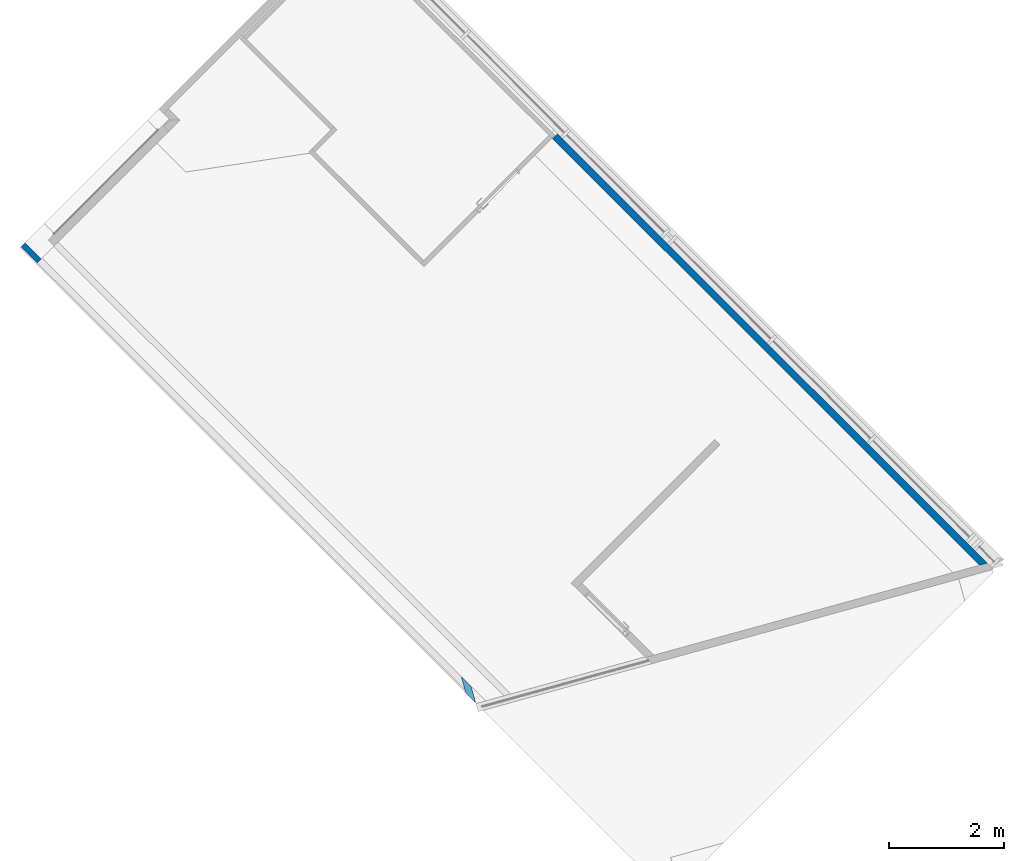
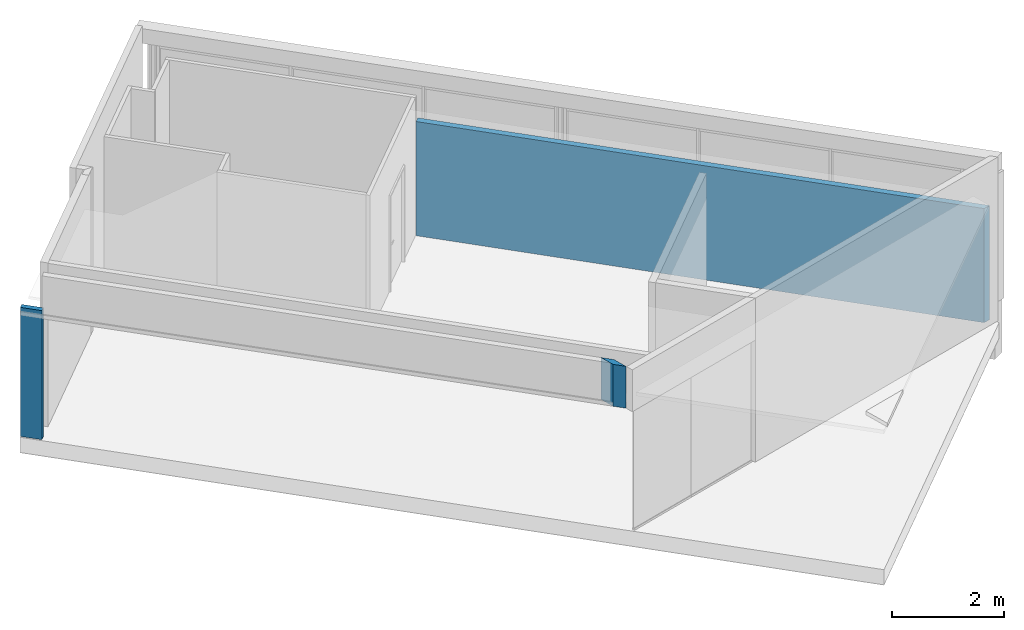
# One storey, part 4 of 6: 3 walls.
"""IFC2X3 building model written with IfcOpenShell, lengths in millimetres."""

from ifc_helpers import new_model, entity, si_unit, converted_unit, derived_unit, direction, frame, origin, origin_with_axes, place, context, subcontext, project, spatial, polyline, outline, extrude, faceted_brep, material, layer, layer_set, layer_usage, type_object, element, save


model = new_model("IFC2X3")

# Units and contexts
model_context = context("Model", 3, precision=0.01, world=origin(), true_north=direction((6.12323399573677e-17, 1.0)))
plan_context = context("Plan", 3, precision=1e-05, world=origin_with_axes())
body_context = subcontext(model_context, "Body", "Model", "MODEL_VIEW")
ifc_project = project(units=[converted_unit("PLANEANGLEUNIT", "DEGREE", entity("IfcPositiveLengthMeasure", 0.0174532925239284), si_unit("PLANEANGLEUNIT", "RADIAN"), dimensions=[0, 0, 0, 0, 0, 0, 0]), si_unit("AREAUNIT", "SQUARE_METRE"), si_unit("LENGTHUNIT", "METRE", prefix="MILLI"), si_unit("MASSUNIT", "GRAM", prefix="KILO"), si_unit("POWERUNIT", "WATT"), si_unit("PRESSUREUNIT", "PASCAL", prefix="KILO"), si_unit("FORCEUNIT", "NEWTON", prefix="KILO"), si_unit("ELECTRICVOLTAGEUNIT", "VOLT"), si_unit("ELECTRICCURRENTUNIT", "AMPERE"), si_unit("THERMODYNAMICTEMPERATUREUNIT", "DEGREE_CELSIUS"), si_unit("TIMEUNIT", "SECOND"), si_unit("VOLUMEUNIT", "CUBIC_METRE"), derived_unit("LINEARVELOCITYUNIT", [(si_unit("LENGTHUNIT", "METRE"), 1), (si_unit("TIMEUNIT", "SECOND"), -1)]), derived_unit("VOLUMETRICFLOWRATEUNIT", [(si_unit("VOLUMEUNIT", "CUBIC_METRE"), 1), (si_unit("TIMEUNIT", "SECOND"), -1)]), derived_unit("THERMALTRANSMITTANCEUNIT", [(si_unit("POWERUNIT", "WATT"), 1), (si_unit("THERMODYNAMICTEMPERATUREUNIT", "KELVIN"), -1), (si_unit("AREAUNIT", "SQUARE_METRE"), -1)]), derived_unit("SOUNDPRESSUREUNIT", [(si_unit("PRESSUREUNIT", "PASCAL"), 1)])], contexts=[model_context, plan_context])

# Site, building, storey
site_placement = place(None, frame((0.0, -2.21771188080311e-09, 0.0), z_axis=(0.0, 0.0, 1.0), x_axis=(0.266093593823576, -0.963947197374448, 0.0)))
site = spatial("IfcSite", under=ifc_project, at=site_placement, Name="ENZV", CompositionType="ELEMENT")
building_placement = place(site_placement, origin_with_axes())
building = spatial("IfcBuilding", under=site, at=building_placement, Name="ZV001", CompositionType="ELEMENT")
storey_placement = place(building_placement, frame((0.0, 0.0, 9300.0), z_axis=(0.0, 0.0, 1.0), x_axis=(1.0, 0.0, 0.0)))
storey = spatial("IfcBuildingStorey", under=building, at=storey_placement, Name="H02", CompositionType="ELEMENT", Elevation=9300.0)

# Walls
ifc_material_1 = material(Name="A246.Gips 12.5mm fiberarmert -QK5.31112")
ifc_layer_1 = layer(ifc_material_1, 13.0)
ifc_material_2 = material(Name="OSB plate")
ifc_layer_2 = layer(ifc_material_2, 12.0)
ifc_material_3 = material(Name="A242.Stender Lettmetall 95mm -PJ3.111002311")
ifc_layer_3 = layer(ifc_material_3, 70.0)
ifc_layer_4 = layer(ifc_material_2, 12.0)
ifc_layer_5 = layer(ifc_material_1, 13.0)
ifc_layer_set_1 = layer_set([ifc_layer_1, ifc_layer_2, ifc_layer_3, ifc_layer_4, ifc_layer_5], Name="Basic Wall:ENZV_S-UK01_S70_120mm_OSBG")
wall_type_1 = type_object("IfcWallType", Name="Basic Wall:ENZV_S-UK01_S70_120mm_OSBG", PredefinedType="STANDARD", material=ifc_layer_set_1)
wall_1_placement = place(storey_placement, frame((-250973.521324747, 425370.73838679, 2650.0), z_axis=(0.0, 0.0, 1.0), x_axis=(1.0, 0.0, 0.0)))
element("IfcWall", 1, at=wall_1_placement, inside=storey, type_object=wall_type_1, Name="Basic Wall:ENZV_S-UK01_S70_120mm_OSBG", ObjectType="Basic Wall:ENZV_S-UK01_S70_120mm_OSBG", context=body_context, shape_type="Brep", body=[
    faceted_brep([(301.225956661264, -60.0, 910.000000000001), (301.225956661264, -60.0, 0.0), (0.0, -60.0, 0.0), (0.0, -60.0, 910.000000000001), (512.374038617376, 60.0, 0.0), (512.374038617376, 60.0, 910.000000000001), (211.148783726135, 60.0, 910.000000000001), (211.148783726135, 60.0, 0.0)], [[[0, 1, 2, 3]], [[4, 5, 6, 7]], [[7, 6, 3, 2]], [[1, 4, 7, 2]], [[5, 0, 3, 6]], [[5, 4, 1, 0]]], orient=[[False], [False], [False], [False], [False], [False]]),
])
ifc_layer_6 = layer(ifc_material_1, 13.0)
ifc_layer_7 = layer(ifc_material_2, 12.0)
ifc_layer_8 = layer(ifc_material_3, 95.0)
ifc_layer_set_2 = layer_set([ifc_layer_6, ifc_layer_7, ifc_layer_8], Name="Basic Wall:ENZV_PV-UK02_S95_120mm_OSBG")
ifc_layer_usage = layer_usage(ifc_layer_set_2, "AXIS2", "NEGATIVE", 60.0)
wall_type_2 = type_object("IfcWallType", Name="Basic Wall:ENZV_PV-UK02_S95_120mm_OSBG", PredefinedType="STANDARD", material=ifc_layer_set_2)
wall_2_placement = place(storey_placement, frame((-250407.216293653, 434575.514856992, 0.0), z_axis=(0.0, 0.0, 1.0), x_axis=(-0.86940438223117, -0.49410122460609, 0.0)))
element("IfcWallStandardCase", 2, at=wall_2_placement, inside=storey, type_object=wall_type_2, material=ifc_layer_usage, Name="Basic Wall:ENZV_PV-UK02_S95_120mm_OSBG", ObjectType="Basic Wall:ENZV_PV-UK02_S95_120mm_OSBG", context=body_context, shape_type="SweptSolid", body=[
    extrude(outline(polyline([(10534.2383822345, -60.0), (10534.2383822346, 60.0), (68.1985830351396, 60.0), (0.0, -60.0), (10534.2383822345, -60.0)])), origin(), (0.0, 0.0, 1.0), 2480.0),
])
ifc_layer_9 = layer(ifc_material_1, 13.0)
ifc_layer_10 = layer(ifc_material_2, 12.0)
ifc_layer_11 = layer(ifc_material_3, 70.0)
ifc_layer_set_3 = layer_set([ifc_layer_9, ifc_layer_10, ifc_layer_11], Name="Basic Wall:ENZV_PV-UK01_S70_95mm_OSBG m wrap")
wall_type_3 = type_object("IfcWallType", Name="Basic Wall:ENZV_PV-UK01_S70_95mm_OSBG m wrap", PredefinedType="STANDARD", material=ifc_layer_set_3)
wall_3_placement = place(storey_placement, frame((-262083.849258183, 418913.130498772, 0.0), z_axis=(0.0, 0.0, 1.0), x_axis=(0.869405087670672, 0.494099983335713, 0.0)))
element("IfcWall", 3, at=wall_3_placement, inside=storey, type_object=wall_type_3, Name="Basic Wall:ENZV_PV-UK01_S70_95mm_OSBG m wrap", ObjectType="Basic Wall:ENZV_PV-UK01_S70_95mm_OSBG m wrap", context=body_context, shape_type="Brep", body=[
    faceted_brep([(2557.48557964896, -47.5000000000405, 0.0), (2557.48557964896, -47.5000000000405, 2804.0), (2557.48557964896, 47.5000000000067, 2804.0), (2557.48557964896, 47.5000000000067, 0.0), (2159.99664022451, 47.5000000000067, 2804.0), (2159.99664022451, 47.5000000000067, 1.13686837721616e-13), (2159.99677585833, -47.5000000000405, 2.8421709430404e-14), (2159.99677585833, -47.5000000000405, 2804.0), (2159.99642606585, -47.5000000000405, 2804.0), (2159.99642606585, -47.5000000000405, 0.0), (2159.99642606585, 47.5000000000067, 0.0), (2159.99642606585, 47.5000000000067, 2804.0)], [[[0, 1, 2, 3]], [[4, 5, 3, 2]], [[6, 7, 1, 0]], [[5, 6, 0, 3]], [[7, 4, 2, 1]], [[8, 9, 10, 11]]], orient=[[False], [False], [False], [False], [False], [False]]),
])

save(model, "model.ifc")
